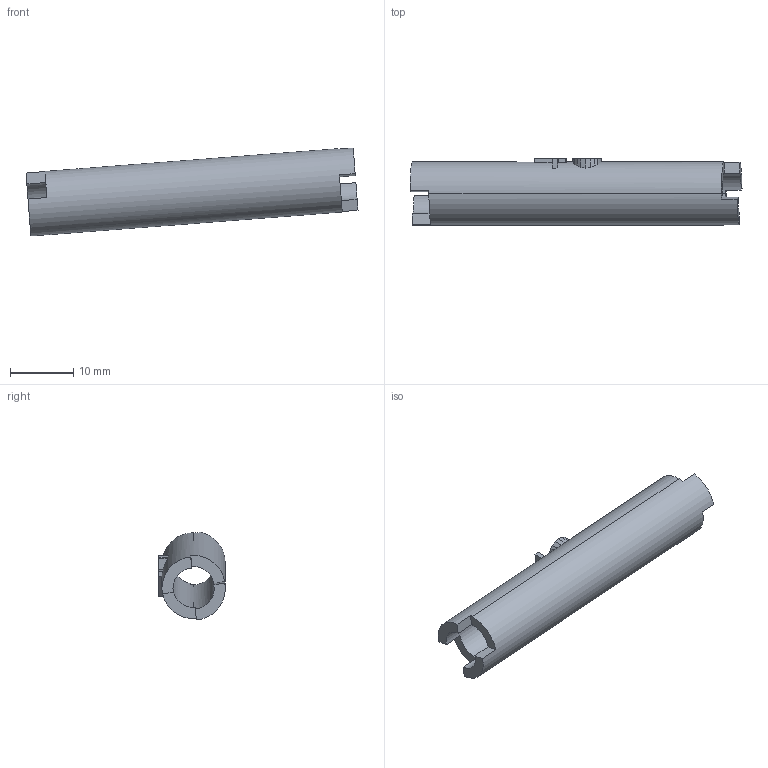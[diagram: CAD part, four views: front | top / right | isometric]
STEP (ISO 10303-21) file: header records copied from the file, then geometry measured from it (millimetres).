
FILE_DESCRIPTION((''),'2;1');
FILE_NAME('0000236850_PRT','2025-11-12T18:35:33',('Wyndorps'),(''),'CREO PARAMETRIC BY PTC INC, 2025010','CREO PARAMETRIC BY PTC INC, 2025010','');
FILE_SCHEMA(('CONFIG_CONTROL_DESIGN'));
Length unit declared in the file: millimetre
Products named in the file (1): 0000236850_PRT
Bounding box: 52.36 x 10.5 x 13.87 mm (x, y, z)
Volume: 2229.1 mm3; surface area: 2704.8 mm2
Topology: 1 solids, 1 shells, 82 faces, 234 edges, 156 vertices
Faces by surface type: plane 76, cylinder 6
Entity records: 2693 total; most frequent: CARTESIAN_POINT 555, ORIENTED_EDGE 468, DIRECTION 390, EDGE_CURVE 234, VECTOR 158, LINE 158, VERTEX_POINT 156, AXIS2_PLACEMENT_3D 116
